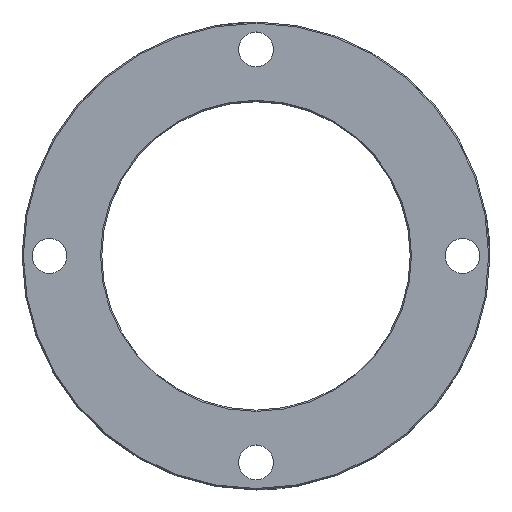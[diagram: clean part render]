
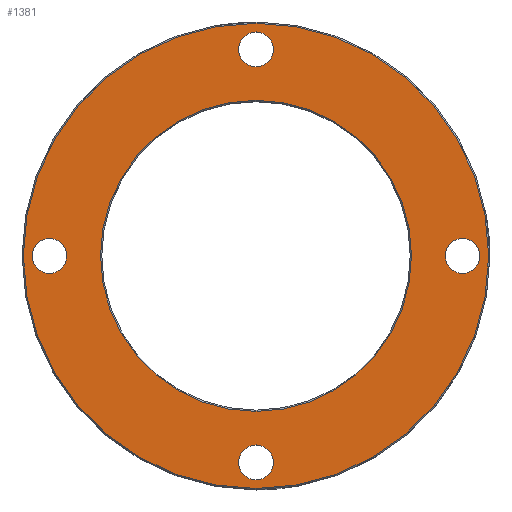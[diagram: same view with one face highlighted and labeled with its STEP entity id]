
A CAD part, top view. The second image highlights one B-rep face of the part: STEP entity #1381.
In plain terms, the highlighted planar face has unit normal (0, 0, 1).
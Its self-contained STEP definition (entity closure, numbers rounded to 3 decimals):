
#93=VERTEX_POINT(' ',#94);
#94=CARTESIAN_POINT('',(0.,90.,0.));
#95=VERTEX_POINT(' ',#96);
#96=CARTESIAN_POINT('',(0.,76.,0.));
#101=VERTEX_POINT(' ',#102);
#102=CARTESIAN_POINT('',(0.,-76.,0.));
#103=VERTEX_POINT(' ',#104);
#104=CARTESIAN_POINT('',(0.,-90.,0.));
#167=VERTEX_POINT(' ',#168);
#168=CARTESIAN_POINT('',(83.,-7.,0.));
#169=VERTEX_POINT(' ',#170);
#170=CARTESIAN_POINT('',(83.,7.,0.));
#171=VERTEX_POINT(' ',#172);
#172=CARTESIAN_POINT('',(-83.,-7.,0.));
#173=VERTEX_POINT(' ',#174);
#174=CARTESIAN_POINT('',(-83.,7.,0.));
#179=VERTEX_POINT(' ',#180);
#180=CARTESIAN_POINT('',(0.,-62.5,0.));
#181=VERTEX_POINT(' ',#182);
#182=CARTESIAN_POINT('',(0.,62.5,0.));
#183=VERTEX_POINT(' ',#184);
#184=CARTESIAN_POINT('',(0.,-93.5,0.));
#185=VERTEX_POINT(' ',#186);
#186=CARTESIAN_POINT('',(0.,93.5,0.));
#214=CIRCLE('',#215,7.);
#215=AXIS2_PLACEMENT_3D('',#216,#217,#218);
#216=CARTESIAN_POINT('',(0.,83.,0.));
#217=DIRECTION('',(0.,0.,1.));
#218=DIRECTION('',(1.,0.,0.));
#219=EDGE_CURVE(' ',#93,#95,#214,.T.);
#231=CIRCLE('',#232,7.);
#232=AXIS2_PLACEMENT_3D('',#233,#234,#235);
#233=CARTESIAN_POINT('',(0.,83.,0.));
#234=DIRECTION('',(0.,0.,1.));
#235=DIRECTION('',(-1.,0.,0.));
#236=EDGE_CURVE(' ',#95,#93,#231,.T.);
#248=CIRCLE('',#249,7.);
#249=AXIS2_PLACEMENT_3D('',#250,#251,#252);
#250=CARTESIAN_POINT('',(0.,-83.,0.));
#251=DIRECTION('',(0.,0.,1.));
#252=DIRECTION('',(1.,0.,0.));
#253=EDGE_CURVE(' ',#101,#103,#248,.T.);
#265=CIRCLE('',#266,7.);
#266=AXIS2_PLACEMENT_3D('',#267,#268,#269);
#267=CARTESIAN_POINT('',(0.,-83.,0.));
#268=DIRECTION('',(0.,0.,1.));
#269=DIRECTION('',(-1.,0.,0.));
#270=EDGE_CURVE(' ',#103,#101,#265,.T.);
#512=CIRCLE('',#513,7.);
#513=AXIS2_PLACEMENT_3D('',#514,#515,#516);
#514=CARTESIAN_POINT('',(83.,0.,0.));
#515=DIRECTION('',(0.,0.,-1.));
#516=DIRECTION('',(-1.,0.,0.));
#517=EDGE_CURVE(' ',#167,#169,#512,.F.);
#523=CIRCLE('',#524,7.);
#524=AXIS2_PLACEMENT_3D('',#525,#526,#527);
#525=CARTESIAN_POINT('',(83.,0.,0.));
#526=DIRECTION('',(0.,0.,-1.));
#527=DIRECTION('',(1.,0.,0.));
#528=EDGE_CURVE(' ',#169,#167,#523,.F.);
#534=CIRCLE('',#535,7.);
#535=AXIS2_PLACEMENT_3D('',#536,#537,#538);
#536=CARTESIAN_POINT('',(-83.,0.,0.));
#537=DIRECTION('',(0.,0.,-1.));
#538=DIRECTION('',(-1.,0.,0.));
#539=EDGE_CURVE(' ',#171,#173,#534,.F.);
#545=CIRCLE('',#546,7.);
#546=AXIS2_PLACEMENT_3D('',#547,#548,#549);
#547=CARTESIAN_POINT('',(-83.,0.,0.));
#548=DIRECTION('',(0.,0.,-1.));
#549=DIRECTION('',(1.,0.,0.));
#550=EDGE_CURVE(' ',#173,#171,#545,.F.);
#583=CIRCLE('',#584,62.5);
#584=AXIS2_PLACEMENT_3D('',#585,#586,#587);
#585=CARTESIAN_POINT('',(0.,0.,0.));
#586=DIRECTION('',(0.,0.,1.));
#587=DIRECTION('',(1.,0.,0.));
#588=EDGE_CURVE(' ',#181,#179,#583,.T.);
#589=CIRCLE('',#590,62.5);
#590=AXIS2_PLACEMENT_3D('',#591,#592,#593);
#591=CARTESIAN_POINT('',(0.,0.,0.));
#592=DIRECTION('',(0.,0.,1.));
#593=DIRECTION('',(-1.,0.,0.));
#594=EDGE_CURVE(' ',#179,#181,#589,.T.);
#595=CIRCLE('',#596,93.5);
#596=AXIS2_PLACEMENT_3D('',#597,#598,#599);
#597=CARTESIAN_POINT('',(0.,0.,0.));
#598=DIRECTION('',(0.,0.,-1.));
#599=DIRECTION('',(-1.,0.,0.));
#600=EDGE_CURVE(' ',#185,#183,#595,.T.);
#601=CIRCLE('',#602,93.5);
#602=AXIS2_PLACEMENT_3D('',#603,#604,#605);
#603=CARTESIAN_POINT('',(0.,0.,0.));
#604=DIRECTION('',(0.,0.,-1.));
#605=DIRECTION('',(1.,0.,0.));
#606=EDGE_CURVE(' ',#183,#185,#601,.T.);
#1352=ORIENTED_EDGE('',*,*,#600,.F.);
#1353=ORIENTED_EDGE('',*,*,#606,.F.);
#1354=EDGE_LOOP('',(#1352,#1353));
#1355=FACE_OUTER_BOUND('',#1354,.T.);
#1356=ORIENTED_EDGE('',*,*,#594,.F.);
#1357=ORIENTED_EDGE('',*,*,#588,.F.);
#1358=EDGE_LOOP('',(#1356,#1357));
#1359=FACE_BOUND('',#1358,.T.);
#1360=ORIENTED_EDGE('',*,*,#550,.F.);
#1361=ORIENTED_EDGE('',*,*,#539,.F.);
#1362=EDGE_LOOP('',(#1360,#1361));
#1363=FACE_BOUND('',#1362,.T.);
#1364=ORIENTED_EDGE('',*,*,#528,.F.);
#1365=ORIENTED_EDGE('',*,*,#517,.F.);
#1366=EDGE_LOOP('',(#1364,#1365));
#1367=FACE_BOUND('',#1366,.T.);
#1368=ORIENTED_EDGE('',*,*,#219,.F.);
#1369=ORIENTED_EDGE('',*,*,#236,.F.);
#1370=EDGE_LOOP('',(#1368,#1369));
#1371=FACE_BOUND('',#1370,.T.);
#1372=ORIENTED_EDGE('',*,*,#253,.F.);
#1373=ORIENTED_EDGE('',*,*,#270,.F.);
#1374=EDGE_LOOP('',(#1372,#1373));
#1375=FACE_BOUND('',#1374,.T.);
#1376=PLANE('',#1377);
#1377=AXIS2_PLACEMENT_3D('',#1378,#1379,#1380);
#1378=CARTESIAN_POINT('',(94.,0.,0.));
#1379=DIRECTION('',(0.,0.,1.));
#1380=DIRECTION('',(0.,1.,0.));
#1381=ADVANCED_FACE('',(#1355,#1359,#1363,#1367,#1371,#1375),#1376,.T.);
